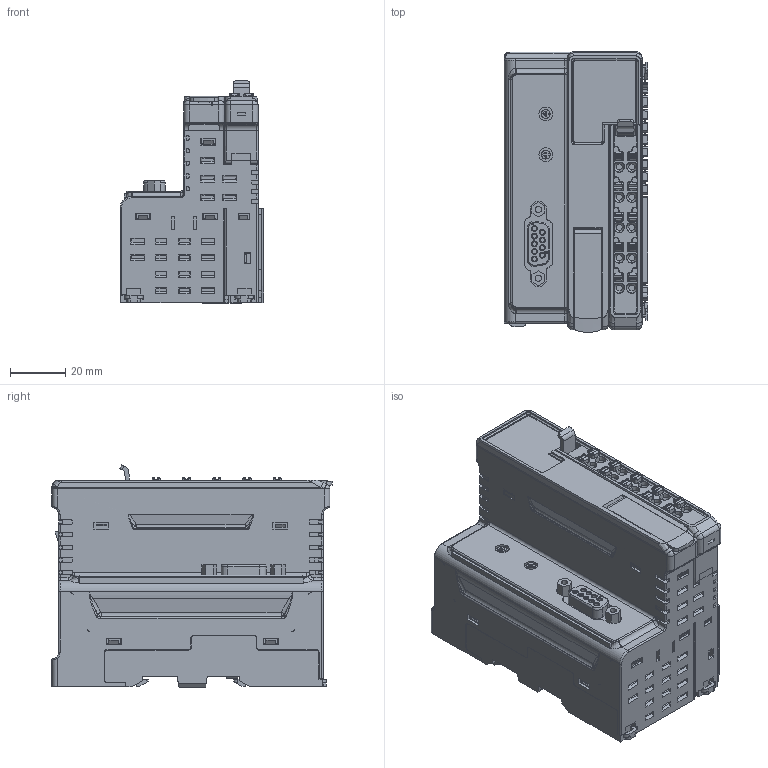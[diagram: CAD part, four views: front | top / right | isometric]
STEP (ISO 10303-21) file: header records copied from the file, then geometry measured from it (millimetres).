
FILE_DESCRIPTION((''),'2;1');
FILE_NAME('COUPLER_ASM','2021-04-27T09:45:18',('서영민'),(''),'CREO PARAMETRIC BY PTC INC, 2020454','CREO PARAMETRIC BY PTC INC, 2020454','');
FILE_SCHEMA(('CONFIG_CONTROL_DESIGN'));
Products named in the file (3): MIO-CMR0A; TERMINAL_PLUG; COUPLER_ASM
Assembly tree (2 placements, depth 2):
  COUPLER_ASM
    MIO-CMR0A
    TERMINAL_PLUG
Bounding box: 52.15 x 101.84 x 80.69 mm (x, y, z)
Volume: 277107.2 mm3; surface area: 51495.3 mm2
Topology: 3 solids, 11 shells, 4100 faces, 10608 edges, 6672 vertices
Faces by surface type: plane 2975, cylinder 733, bspline 172, cone 143, torus 65, sphere 12
Entity records: 135384 total; most frequent: CARTESIAN_POINT 36854, ORIENTED_EDGE 21216, DIRECTION 19039, EDGE_CURVE 10608, VECTOR 8313, LINE 8313, VERTEX_POINT 6672, AXIS2_PLACEMENT_3D 5363
